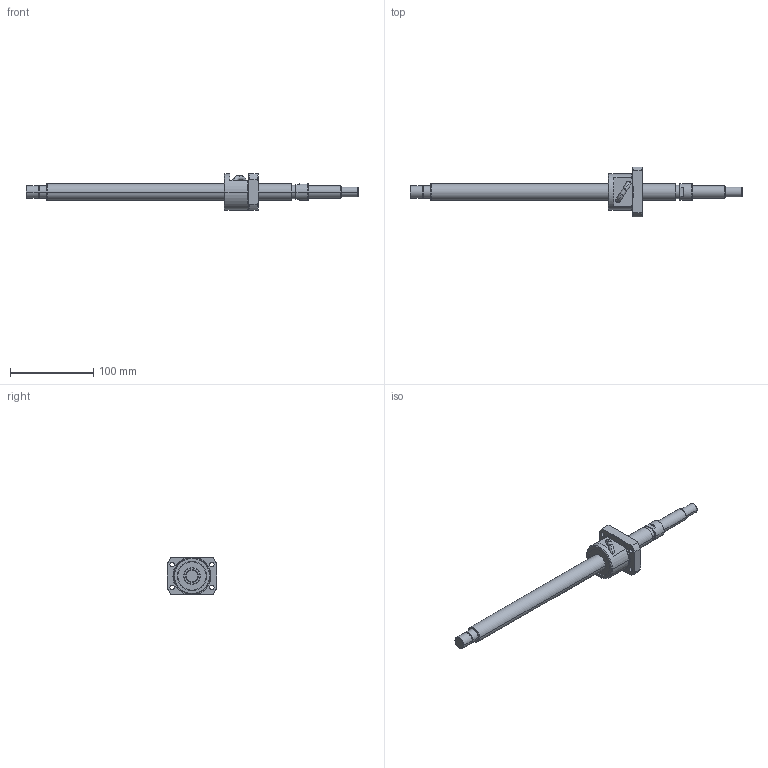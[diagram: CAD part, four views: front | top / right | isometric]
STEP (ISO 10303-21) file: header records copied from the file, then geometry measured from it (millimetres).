
FILE_DESCRIPTION (( 'STEP AP214' ), '1' );
FILE_NAME ('BS2005A-3D.STEP', '2014-03-05T14:51:42', ( '' ), ( '' ), 'SwSTEP 2.0', 'SolidWorks 2012', '' );
FILE_SCHEMA (( 'AUTOMOTIVE_DESIGN' ));
Length unit declared in the file: millimetre
Products named in the file (3): BS2005Aナット; BS2005AŽ²; BS2005A-3D
Assembly tree (2 placements, depth 2):
  BS2005A-3D
    BS2005AŽ²
    BS2005Aナット
Bounding box: 399 x 60 x 44 mm (x, y, z)
Volume: 164476.1 mm3; surface area: 40752.7 mm2
Topology: 2 solids, 2 shells, 152 faces, 396 edges, 257 vertices
Faces by surface type: cylinder 70, plane 42, cone 34, torus 4, bspline 2
Entity records: 6085 total; most frequent: CARTESIAN_POINT 2088, DIRECTION 824, ORIENTED_EDGE 788, EDGE_CURVE 394, AXIS2_PLACEMENT_3D 341, VERTEX_POINT 257, CIRCLE 186, EDGE_LOOP 183
